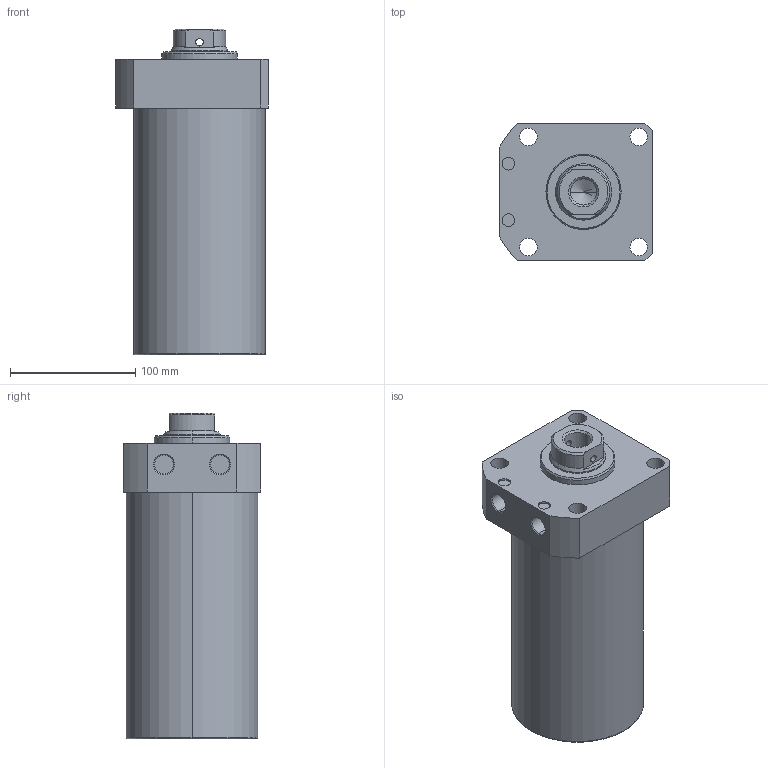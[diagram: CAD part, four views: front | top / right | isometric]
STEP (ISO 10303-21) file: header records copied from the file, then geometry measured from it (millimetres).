
FILE_DESCRIPTION (( 'STEP AP203' ), '1' );
FILE_NAME ('CLLR-105CB-150.STEP', '2019-12-18T07:36:15', ( '' ), ( '' ), 'SwSTEP 2.0', 'SolidWorks 2015', '' );
FILE_SCHEMA (( 'CONFIG_CONTROL_DESIGN' ));
Length unit declared in the file: millimetre
Products named in the file (1): CLLR-105CB-150
Bounding box: 122 x 110 x 260 mm (x, y, z)
Volume: 2202554.1 mm3; surface area: 123746.4 mm2
Topology: 1 solids, 1 shells, 69 faces, 165 edges, 104 vertices
Faces by surface type: cylinder 33, plane 19, cone 15, torus 2
Entity records: 2227 total; most frequent: CARTESIAN_POINT 481, DIRECTION 372, ORIENTED_EDGE 326, EDGE_CURVE 163, AXIS2_PLACEMENT_3D 151, VERTEX_POINT 104, EDGE_LOOP 89, CIRCLE 81
